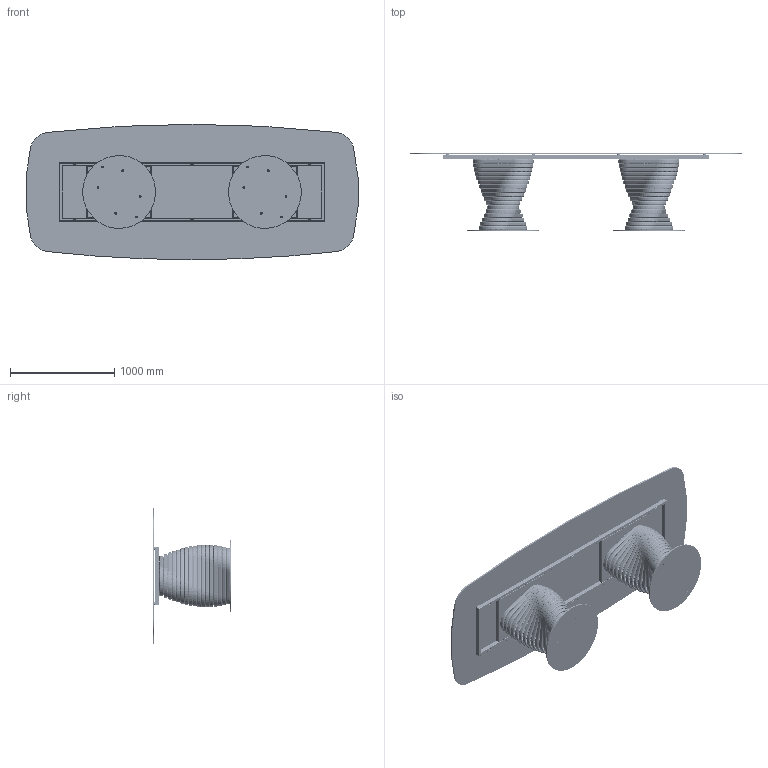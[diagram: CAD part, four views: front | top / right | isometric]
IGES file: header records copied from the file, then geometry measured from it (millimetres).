
Start section: SolidWorks IGES file using analytic representation for surfaces
Global section: file name: Y:\eforma\TECNICO\SOLIDWORKS\E-FORMA\1-TAVOLI\ROTOLO\02 parts\RO46G.IGS; native system: SolidWorks 2022; preprocessor: SolidWorks 2022; author: eforma.tech; date: 240807.152143; units: millimetre
Bounding box: 3189.57 x 757 x 1300 mm (x, y, z)
Volume: 81695800.6 mm3; surface area: 22414768.8 mm2
Topology: 186 solids, 186 shells, 2831 faces, 6655 edges, 4150 vertices
Faces by surface type: revolution 1665, plane 1166
